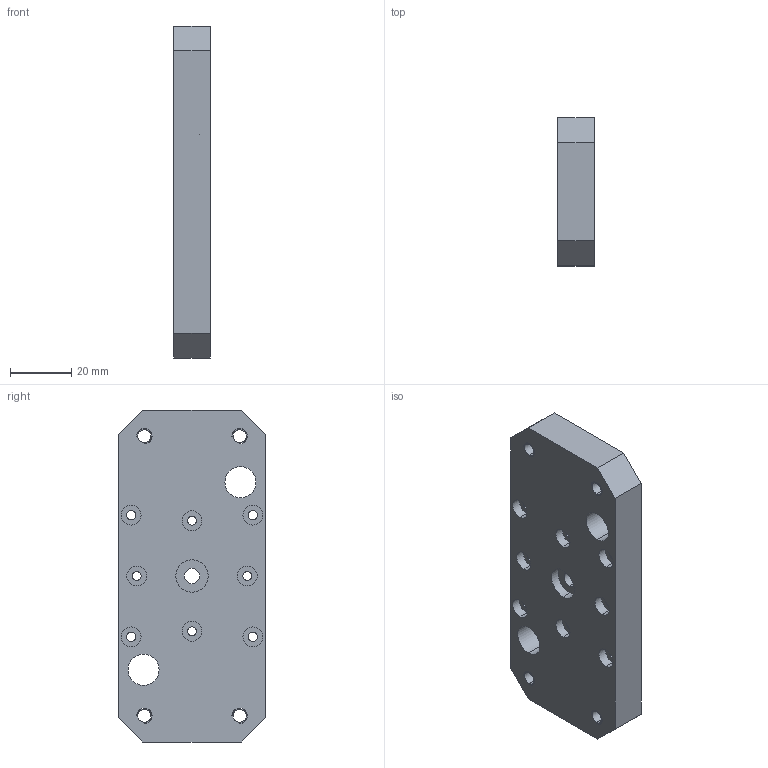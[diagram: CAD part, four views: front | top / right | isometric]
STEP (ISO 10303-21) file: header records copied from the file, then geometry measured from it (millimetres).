
FILE_DESCRIPTION (( 'STEP AP203' ), '1' );
FILE_NAME ('012 Plaque d''Ejection.STEP', '2021-10-27T18:22:12', ( '' ), ( '' ), 'SwSTEP 2.0', 'SolidWorks 2019', '' );
FILE_SCHEMA (( 'CONFIG_CONTROL_DESIGN' ));
Length unit declared in the file: millimetre
Products named in the file (1): 012 Plaque d''Ejection
Bounding box: 12 x 48 x 108 mm (x, y, z)
Volume: 56314.3 mm3; surface area: 16971.1 mm2
Topology: 1 solids, 1 shells, 91 faces, 240 edges, 160 vertices
Faces by surface type: cylinder 64, plane 27
Entity records: 3035 total; most frequent: DIRECTION 552, CARTESIAN_POINT 492, ORIENTED_EDGE 480, EDGE_CURVE 240, AXIS2_PLACEMENT_3D 220, VERTEX_POINT 160, EDGE_LOOP 138, CIRCLE 128
